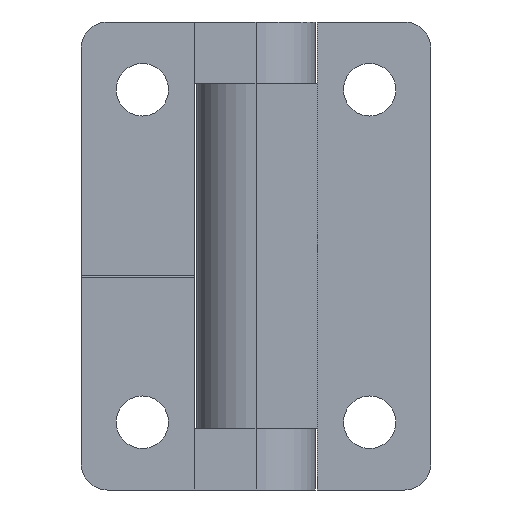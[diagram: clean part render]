
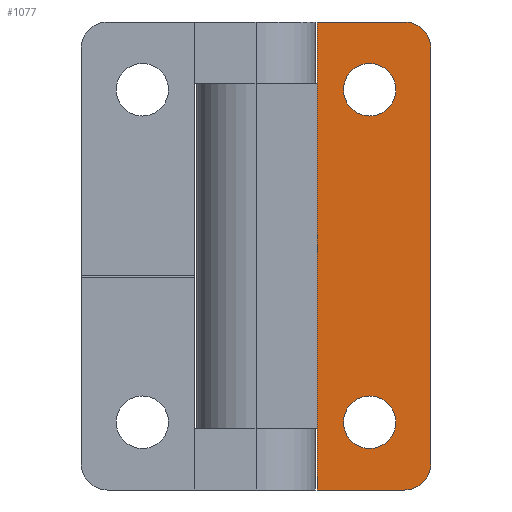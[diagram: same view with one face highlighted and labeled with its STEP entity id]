
A CAD part, front view. The second image highlights one B-rep face of the part: STEP entity #1077.
In plain terms, the highlighted planar face has unit normal (0, -1, 0).
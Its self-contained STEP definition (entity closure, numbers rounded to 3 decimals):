
#16 = AXIS2_PLACEMENT_3D ( 'NONE', #895, #1732, #547 ) ;
#54 = PLANE ( 'NONE',  #400 ) ;
#55 = CARTESIAN_POINT ( 'NONE',  ( 3., -3.75, 26.75 ) ) ;
#79 = EDGE_CURVE ( 'NONE', #150, #366, #840, .T. ) ;
#100 = CARTESIAN_POINT ( 'NONE',  ( -3., -3.75, 19. ) ) ;
#132 = LINE ( 'NONE', #2110, #339 ) ;
#150 = VERTEX_POINT ( 'NONE', #425 ) ;
#178 = EDGE_LOOP ( 'NONE', ( #378, #1569 ) ) ;
#215 = AXIS2_PLACEMENT_3D ( 'NONE', #967, #1617, #1638 ) ;
#259 = DIRECTION ( 'NONE',  ( 0., 1., 0. ) ) ;
#262 = AXIS2_PLACEMENT_3D ( 'NONE', #1676, #355, #1185 ) ;
#314 = EDGE_CURVE ( 'NONE', #859, #1634, #878, .T. ) ;
#338 = VECTOR ( 'NONE', #591, 1000. ) ;
#339 = VECTOR ( 'NONE', #1669, 1000. ) ;
#346 = ORIENTED_EDGE ( 'NONE', *, *, #533, .T. ) ;
#355 = DIRECTION ( 'NONE',  ( 0., 1., 0. ) ) ;
#366 = VERTEX_POINT ( 'NONE', #1314 ) ;
#378 = ORIENTED_EDGE ( 'NONE', *, *, #1395, .T. ) ;
#389 = CARTESIAN_POINT ( 'NONE',  ( 0., -3.75, -26.75 ) ) ;
#394 = CIRCLE ( 'NONE', #637, 3. ) ;
#400 = AXIS2_PLACEMENT_3D ( 'NONE', #1369, #2054, #1212 ) ;
#415 = DIRECTION ( 'NONE',  ( 0., -1., 0. ) ) ;
#425 = CARTESIAN_POINT ( 'NONE',  ( -7., -3.75, 26.75 ) ) ;
#523 = VERTEX_POINT ( 'NONE', #858 ) ;
#533 = EDGE_CURVE ( 'NONE', #1634, #1225, #1672, .T. ) ;
#547 = DIRECTION ( 'NONE',  ( 0., 0., 1. ) ) ;
#591 = DIRECTION ( 'NONE',  ( 1., 0., 0. ) ) ;
#592 = ORIENTED_EDGE ( 'NONE', *, *, #1178, .T. ) ;
#617 = VERTEX_POINT ( 'NONE', #1093 ) ;
#637 = AXIS2_PLACEMENT_3D ( 'NONE', #1210, #259, #1055 ) ;
#748 = CIRCLE ( 'NONE', #920, 3. ) ;
#774 = VECTOR ( 'NONE', #1452, 1000. ) ;
#783 = CIRCLE ( 'NONE', #16, 3. ) ;
#805 = ORIENTED_EDGE ( 'NONE', *, *, #79, .T. ) ;
#815 = CARTESIAN_POINT ( 'NONE',  ( -7., -3.75, -26.75 ) ) ;
#840 = CIRCLE ( 'NONE', #1835, 3. ) ;
#858 = CARTESIAN_POINT ( 'NONE',  ( -3., -3.75, -22. ) ) ;
#859 = VERTEX_POINT ( 'NONE', #1323 ) ;
#874 = ORIENTED_EDGE ( 'NONE', *, *, #1968, .T. ) ;
#878 = CIRCLE ( 'NONE', #215, 3. ) ;
#895 = CARTESIAN_POINT ( 'NONE',  ( -3., -3.75, 19. ) ) ;
#920 = AXIS2_PLACEMENT_3D ( 'NONE', #100, #1928, #1592 ) ;
#967 = CARTESIAN_POINT ( 'NONE',  ( -7., -3.75, -23.75 ) ) ;
#1037 = CARTESIAN_POINT ( 'NONE',  ( -3., -3.75, 16. ) ) ;
#1055 = DIRECTION ( 'NONE',  ( 0., 0., 1. ) ) ;
#1058 = FACE_BOUND ( 'NONE', #178, .T. ) ;
#1075 = DIRECTION ( 'NONE',  ( 0., 0., 1. ) ) ;
#1077 = ADVANCED_FACE ( 'NONE', ( #1058, #1390, #1402 ), #54, .F. ) ;
#1082 = VERTEX_POINT ( 'NONE', #1037 ) ;
#1093 = CARTESIAN_POINT ( 'NONE',  ( -3., -3.75, 22. ) ) ;
#1095 = EDGE_CURVE ( 'NONE', #1082, #617, #783, .T. ) ;
#1178 = EDGE_CURVE ( 'NONE', #617, #1082, #748, .T. ) ;
#1185 = DIRECTION ( 'NONE',  ( 0., 0., 1. ) ) ;
#1195 = VECTOR ( 'NONE', #1496, 1000. ) ;
#1210 = CARTESIAN_POINT ( 'NONE',  ( -3., -3.75, -19. ) ) ;
#1212 = DIRECTION ( 'NONE',  ( 0., 0., 1. ) ) ;
#1225 = VERTEX_POINT ( 'NONE', #1624 ) ;
#1314 = CARTESIAN_POINT ( 'NONE',  ( -10., -3.75, 23.75 ) ) ;
#1323 = CARTESIAN_POINT ( 'NONE',  ( -10., -3.75, -23.75 ) ) ;
#1355 = VERTEX_POINT ( 'NONE', #1563 ) ;
#1369 = CARTESIAN_POINT ( 'NONE',  ( 0., -3.75, 26.75 ) ) ;
#1385 = VERTEX_POINT ( 'NONE', #2038 ) ;
#1390 = FACE_BOUND ( 'NONE', #1648, .T. ) ;
#1395 = EDGE_CURVE ( 'NONE', #1355, #523, #394, .T. ) ;
#1402 = FACE_OUTER_BOUND ( 'NONE', #1559, .T. ) ;
#1415 = ORIENTED_EDGE ( 'NONE', *, *, #1095, .T. ) ;
#1429 = LINE ( 'NONE', #1631, #774 ) ;
#1452 = DIRECTION ( 'NONE',  ( 1., 0., 0. ) ) ;
#1480 = EDGE_CURVE ( 'NONE', #150, #1385, #1429, .T. ) ;
#1496 = DIRECTION ( 'NONE',  ( 0., 0., -1. ) ) ;
#1537 = ORIENTED_EDGE ( 'NONE', *, *, #1678, .F. ) ;
#1559 = EDGE_LOOP ( 'NONE', ( #874, #2138, #346, #1537, #2000, #805 ) ) ;
#1563 = CARTESIAN_POINT ( 'NONE',  ( -3., -3.75, -16. ) ) ;
#1569 = ORIENTED_EDGE ( 'NONE', *, *, #2135, .T. ) ;
#1592 = DIRECTION ( 'NONE',  ( 0., 0., 1. ) ) ;
#1617 = DIRECTION ( 'NONE',  ( 0., -1., 0. ) ) ;
#1624 = CARTESIAN_POINT ( 'NONE',  ( 3., -3.75, -26.75 ) ) ;
#1631 = CARTESIAN_POINT ( 'NONE',  ( 0., -3.75, 26.75 ) ) ;
#1634 = VERTEX_POINT ( 'NONE', #815 ) ;
#1638 = DIRECTION ( 'NONE',  ( 0., 0., 1. ) ) ;
#1648 = EDGE_LOOP ( 'NONE', ( #592, #1415 ) ) ;
#1664 = LINE ( 'NONE', #55, #1195 ) ;
#1669 = DIRECTION ( 'NONE',  ( 0., 0., -1. ) ) ;
#1672 = LINE ( 'NONE', #389, #338 ) ;
#1674 = CARTESIAN_POINT ( 'NONE',  ( -7., -3.75, 23.75 ) ) ;
#1676 = CARTESIAN_POINT ( 'NONE',  ( -3., -3.75, -19. ) ) ;
#1678 = EDGE_CURVE ( 'NONE', #1385, #1225, #1664, .T. ) ;
#1732 = DIRECTION ( 'NONE',  ( 0., 1., 0. ) ) ;
#1835 = AXIS2_PLACEMENT_3D ( 'NONE', #1674, #415, #1075 ) ;
#1928 = DIRECTION ( 'NONE',  ( 0., 1., 0. ) ) ;
#1968 = EDGE_CURVE ( 'NONE', #366, #859, #132, .T. ) ;
#1994 = CIRCLE ( 'NONE', #262, 3. ) ;
#2000 = ORIENTED_EDGE ( 'NONE', *, *, #1480, .F. ) ;
#2038 = CARTESIAN_POINT ( 'NONE',  ( 3., -3.75, 26.75 ) ) ;
#2054 = DIRECTION ( 'NONE',  ( 0., 1., 0. ) ) ;
#2110 = CARTESIAN_POINT ( 'NONE',  ( -10., -3.75, 26.75 ) ) ;
#2135 = EDGE_CURVE ( 'NONE', #523, #1355, #1994, .T. ) ;
#2138 = ORIENTED_EDGE ( 'NONE', *, *, #314, .T. ) ;
